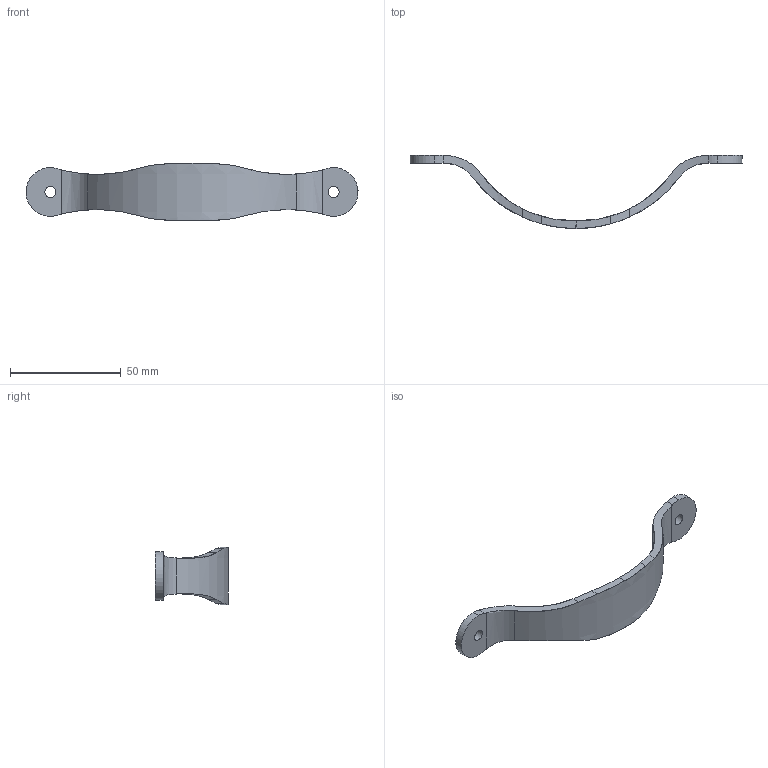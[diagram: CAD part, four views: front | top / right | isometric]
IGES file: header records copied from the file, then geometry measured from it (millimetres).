
Start section: Data from Parasolid IGES Translator 15.0.47, Copyright(c) 2006 Siemens P LM Software. All Rights Reserved.
Global section: file name: 9113645.igs; native system:  By UGS Corp.; preprocessor: XPlus GENERIC/IGES 3.0; author: Noname; organization: Noname; date: 20140122.104245; units: millimetre
Bounding box: 149.95 x 33 x 26 mm (x, y, z)
Surface area: 8010.9 mm2 (no closed solid volume)
Topology: 0 solids, 0 shells, 30 faces, 166 edges, 163 vertices
Faces by surface type: revolution 26, extrusion 4
